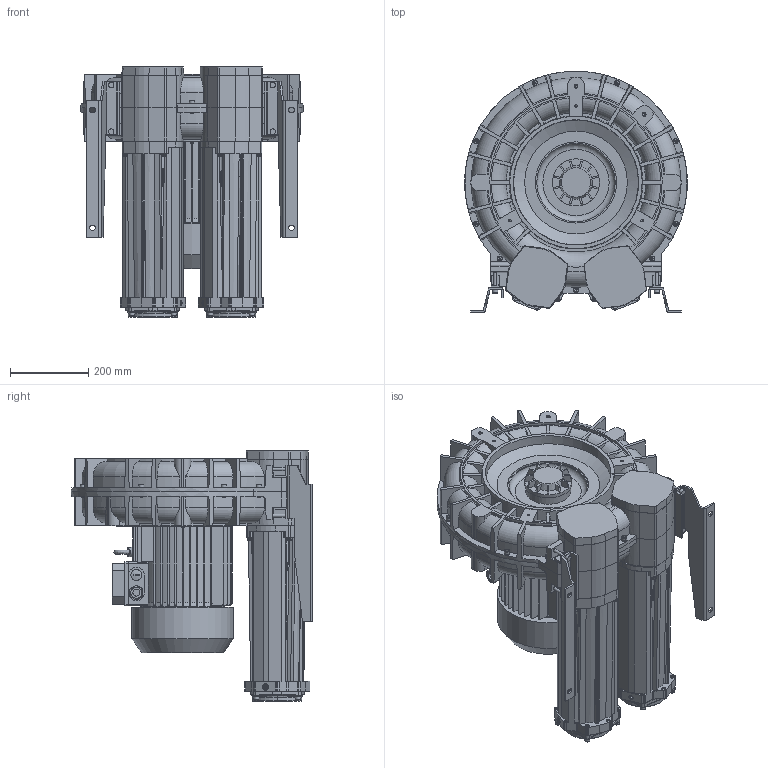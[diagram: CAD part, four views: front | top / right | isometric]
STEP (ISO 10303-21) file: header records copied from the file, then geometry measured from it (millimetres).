
FILE_DESCRIPTION (( 'STEP AP203' ), '1' );
FILE_NAME ('STP-L_e_11_MS_MOR_IE3WR_132_9.2kW-3_24-00.step', '2025-01-14T09:25:45', ( '' ), ( '' ), 'SwSTEP 2.0', 'SolidWorks 2024', '' );
FILE_SCHEMA (( 'CONFIG_CONTROL_DESIGN' ));
Length unit declared in the file: millimetre
Products named in the file (1): STP-L_e_11_MS_MOR_IE3WR_132_9.2kW-3_24-00
Bounding box: 568 x 616 x 638 mm (x, y, z)
Volume: 63938804 mm3; surface area: 3576956.7 mm2
Topology: 82 solids, 82 shells, 5624 faces, 14386 edges, 8942 vertices
Faces by surface type: plane 1916, cylinder 1849, bspline 826, torus 499, cone 477, sphere 57
Full cylindrical faces by diameter (mm): 6.8 x24, 7.5 x4, 8 x33, 8.4 x29, 8.5 x10, 8.566 x2, 8.8 x4, 9.98 x2, 10 x3, 11 x8, 12 x2, 12.02 x2, 13 x46, 14 x14, 16 x4, 16.5 x2, 18 x1, 19 x1, 20 x2, 21.4 x1, 24 x4, 25 x3, 28 x1, 110.4 x2, 115 x2, 120 x1, 128 x2, 207 x3, 213 x1, 259 x1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
Entity records: 269233 total; most frequent: CARTESIAN_POINT 143937, ORIENTED_EDGE 27378, DIRECTION 24034, EDGE_CURVE 13689, AXIS2_PLACEMENT_3D 9233, VERTEX_POINT 8739, EDGE_LOOP 6278, FACE_OUTER_BOUND 5914
